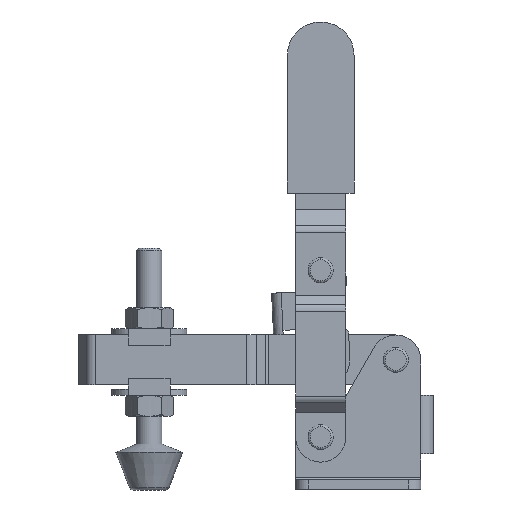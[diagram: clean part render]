
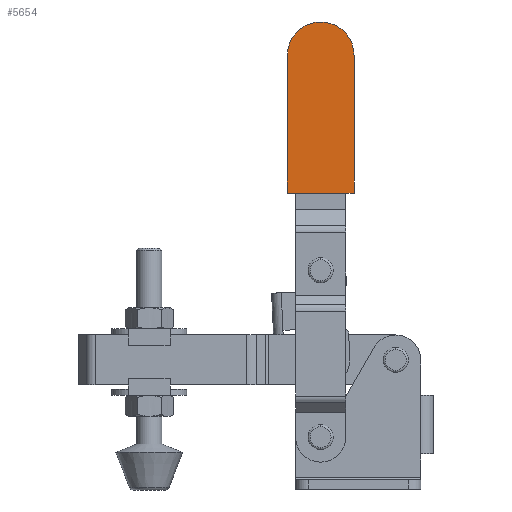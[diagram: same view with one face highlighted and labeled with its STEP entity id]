
A CAD part, front view. The second image highlights one B-rep face of the part: STEP entity #5654.
In plain terms, the highlighted planar face has unit normal (0, -1, 0).
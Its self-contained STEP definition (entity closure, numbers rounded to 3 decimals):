
#5615=CARTESIAN_POINT('Axis2P3D Location',(0.,-4.3,0.)) ;
#5620=CARTESIAN_POINT('Line Origine',(49.09,-4.3,87.5)) ;
#5624=CARTESIAN_POINT('Cartesian Point',(49.09,-4.3,71.)) ;
#5626=CARTESIAN_POINT('Cartesian Point',(49.09,-4.3,104.)) ;
#5629=CARTESIAN_POINT('Axis2P3D Location',(41.09,-4.3,104.)) ;
#5633=CARTESIAN_POINT('Cartesian Point',(33.09,-4.3,104.)) ;
#5636=CARTESIAN_POINT('Line Origine',(33.09,-4.3,87.5)) ;
#5640=CARTESIAN_POINT('Cartesian Point',(33.09,-4.3,71.)) ;
#5643=CARTESIAN_POINT('Line Origine',(41.09,-4.3,71.)) ;
#5616=DIRECTION('Axis2P3D Direction',(0.,1.,0.)) ;
#5617=DIRECTION('Axis2P3D XDirection',(0.,0.,-1.)) ;
#5621=DIRECTION('Vector Direction',(0.,0.,1.)) ;
#5630=DIRECTION('Axis2P3D Direction',(0.,1.,0.)) ;
#5637=DIRECTION('Vector Direction',(0.,0.,1.)) ;
#5644=DIRECTION('Vector Direction',(1.,0.,0.)) ;
#5618=AXIS2_PLACEMENT_3D('Plane Axis2P3D',#5615,#5616,#5617) ;
#5631=AXIS2_PLACEMENT_3D('Circle Axis2P3D',#5629,#5630,$) ;
#5649=ORIENTED_EDGE('Oriented Edge',*,*,#5628,.T.) ;
#5650=ORIENTED_EDGE('Oriented Edge',*,*,#5635,.T.) ;
#5651=ORIENTED_EDGE('Oriented Edge',*,*,#5642,.F.) ;
#5652=ORIENTED_EDGE('Oriented Edge',*,*,#5647,.T.) ;
#5622=VECTOR('Line Direction',#5621,1.) ;
#5638=VECTOR('Line Direction',#5637,1.) ;
#5645=VECTOR('Line Direction',#5644,1.) ;
#5654=ADVANCED_FACE('',(#5653),#5619,.F.) ;
#5632=CIRCLE('generated circle',#5631,8.) ;
#5628=EDGE_CURVE('',#5625,#5627,#5623,.T.) ;
#5635=EDGE_CURVE('',#5627,#5634,#5632,.F.) ;
#5642=EDGE_CURVE('',#5641,#5634,#5639,.T.) ;
#5647=EDGE_CURVE('',#5641,#5625,#5646,.T.) ;
#5648=EDGE_LOOP('Oriented Loop',(#5649,#5650,#5651,#5652)) ;
#5653=FACE_OUTER_BOUND('Face Bound',#5648,.T.) ;
#5623=LINE('Line',#5620,#5622) ;
#5639=LINE('Line',#5636,#5638) ;
#5646=LINE('Line',#5643,#5645) ;
#5619=PLANE('Plane',#5618) ;
#5625=VERTEX_POINT('Vertex Point',#5624) ;
#5627=VERTEX_POINT('Vertex Point',#5626) ;
#5634=VERTEX_POINT('Vertex Point',#5633) ;
#5641=VERTEX_POINT('Vertex Point',#5640) ;
